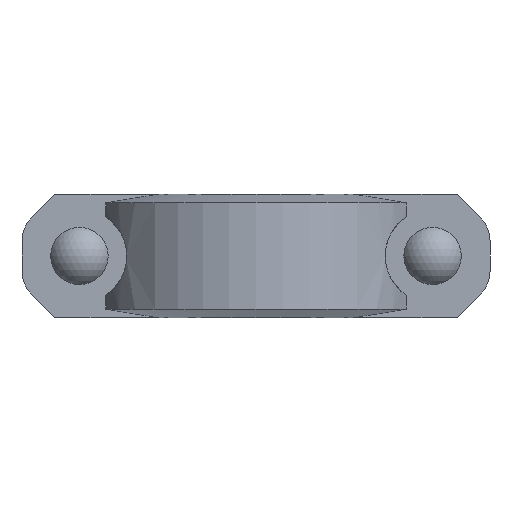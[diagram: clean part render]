
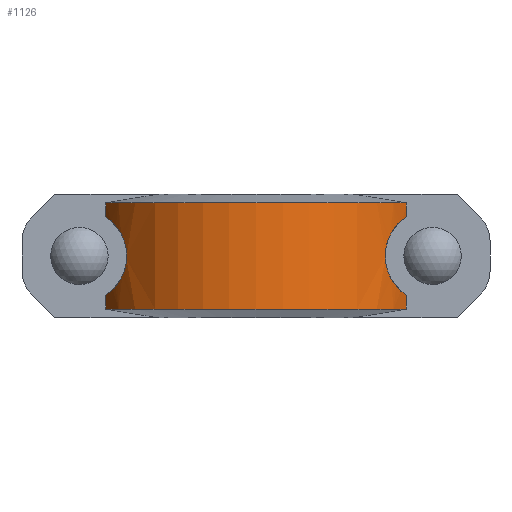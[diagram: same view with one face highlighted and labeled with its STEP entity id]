
A CAD part, front view. The second image highlights one B-rep face of the part: STEP entity #1126.
In plain terms, the highlighted cylindrical face has radius 63.5 mm (diameter 127 mm), a partial arc.
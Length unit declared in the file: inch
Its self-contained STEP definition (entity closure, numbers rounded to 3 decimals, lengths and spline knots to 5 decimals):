
#46=B_SPLINE_CURVE_WITH_KNOTS('',3,(#1940,#1941,#1942,#1943,#1944,#1945,
#1946,#1947,#1948,#1949,#1950,#1951,#1952,#1953,#1954,#1955,#1956,#1957,
#1958,#1959,#1960,#1961,#1962,#1963,#1964,#1965),.UNSPECIFIED.,.F.,.F.,
(4,2,2,2,2,2,2,2,2,2,2,2,4),(12.44604,12.81422,13.304,
13.79378,14.30355,14.55843,14.81331,15.0682,
15.32308,15.83285,16.32263,16.81241,17.18059),
 .UNSPECIFIED.);
#47=B_SPLINE_CURVE_WITH_KNOTS('',3,(#1970,#1971,#1972,#1973,#1974,#1975,
#1976,#1977,#1978,#1979,#1980,#1981,#1982,#1983,#1984,#1985,#1986,#1987,
#1988,#1989,#1990,#1991,#1992,#1993,#1994,#1995),.UNSPECIFIED.,.F.,.F.,
(4,2,2,2,2,2,2,2,2,2,2,2,4),(12.44604,12.81422,13.304,
13.79378,14.30355,14.55843,14.81331,15.0682,
15.32308,15.83285,16.32263,16.81241,17.18059),
 .UNSPECIFIED.);
#168=FACE_OUTER_BOUND('',#243,.T.);
#243=EDGE_LOOP('',(#968,#969,#970,#971,#972,#973,#974,#975));
#299=LINE('',#1758,#386);
#300=LINE('',#1762,#387);
#311=LINE('',#1801,#398);
#312=LINE('',#1805,#399);
#386=VECTOR('',#1434,0.3937);
#387=VECTOR('',#1437,0.3937);
#398=VECTOR('',#1464,0.3937);
#399=VECTOR('',#1467,0.3937);
#460=CIRCLE('',#1241,2.5);
#462=CIRCLE('',#1250,2.5);
#517=VERTEX_POINT('',#1753);
#518=VERTEX_POINT('',#1757);
#519=VERTEX_POINT('',#1759);
#520=VERTEX_POINT('',#1761);
#533=VERTEX_POINT('',#1796);
#534=VERTEX_POINT('',#1800);
#535=VERTEX_POINT('',#1802);
#536=VERTEX_POINT('',#1804);
#634=EDGE_CURVE('',#518,#517,#299,.T.);
#636=EDGE_CURVE('',#520,#519,#300,.T.);
#653=EDGE_CURVE('',#534,#533,#311,.T.);
#655=EDGE_CURVE('',#536,#535,#312,.T.);
#691=EDGE_CURVE('',#520,#533,#460,.T.);
#694=EDGE_CURVE('',#519,#518,#46,.T.);
#696=EDGE_CURVE('',#535,#534,#47,.T.);
#697=EDGE_CURVE('',#536,#517,#462,.T.);
#968=ORIENTED_EDGE('',*,*,#653,.T.);
#969=ORIENTED_EDGE('',*,*,#691,.F.);
#970=ORIENTED_EDGE('',*,*,#636,.T.);
#971=ORIENTED_EDGE('',*,*,#694,.T.);
#972=ORIENTED_EDGE('',*,*,#634,.T.);
#973=ORIENTED_EDGE('',*,*,#697,.F.);
#974=ORIENTED_EDGE('',*,*,#655,.T.);
#975=ORIENTED_EDGE('',*,*,#696,.T.);
#1004=CYLINDRICAL_SURFACE('',#1251,2.5);
#1126=ADVANCED_FACE('',(#168),#1004,.T.);
#1241=AXIS2_PLACEMENT_3D('',#1884,#1532,#1533);
#1250=AXIS2_PLACEMENT_3D('',#1997,#1550,#1551);
#1251=AXIS2_PLACEMENT_3D('',#1998,#1552,#1553);
#1434=DIRECTION('',(0.,0.,1.));
#1437=DIRECTION('',(0.,0.,1.));
#1464=DIRECTION('',(0.,0.,-1.));
#1467=DIRECTION('',(0.,0.,-1.));
#1532=DIRECTION('center_axis',(0.,0.,-1.));
#1533=DIRECTION('ref_axis',(1.,0.,0.));
#1550=DIRECTION('center_axis',(0.,0.,1.));
#1551=DIRECTION('ref_axis',(1.,0.,0.));
#1552=DIRECTION('center_axis',(0.,0.,1.));
#1553=DIRECTION('ref_axis',(1.,0.,0.));
#1753=CARTESIAN_POINT('',(2.29129,-1.,0.81));
#1757=CARTESIAN_POINT('',(2.29129,-1.,0.59952));
#1758=CARTESIAN_POINT('',(2.29129,-1.,0.));
#1759=CARTESIAN_POINT('',(2.29129,-1.,-0.59952));
#1761=CARTESIAN_POINT('',(2.29129,-1.,-0.81));
#1762=CARTESIAN_POINT('',(2.29129,-1.,0.));
#1796=CARTESIAN_POINT('',(-2.29129,-1.,-0.81));
#1800=CARTESIAN_POINT('',(-2.29129,-1.,-0.59952));
#1801=CARTESIAN_POINT('',(-2.29129,-1.,0.));
#1802=CARTESIAN_POINT('',(-2.29129,-1.,0.59952));
#1804=CARTESIAN_POINT('',(-2.29129,-1.,0.81));
#1805=CARTESIAN_POINT('',(-2.29129,-1.,0.));
#1884=CARTESIAN_POINT('Origin',(0.,0.,-0.81));
#1940=CARTESIAN_POINT('Ctrl Pts',(2.29129,-1.,-0.59952));
#1941=CARTESIAN_POINT('Ctrl Pts',(2.27274,-1.04249,-0.58719));
#1942=CARTESIAN_POINT('Ctrl Pts',(2.25338,-1.08363,-0.57308));
#1943=CARTESIAN_POINT('Ctrl Pts',(2.20703,-1.17579,-0.53508));
#1944=CARTESIAN_POINT('Ctrl Pts',(2.17965,-1.22557,-0.50956));
#1945=CARTESIAN_POINT('Ctrl Pts',(2.12477,-1.31843,-0.4479));
#1946=CARTESIAN_POINT('Ctrl Pts',(2.09722,-1.36156,-0.41188));
#1947=CARTESIAN_POINT('Ctrl Pts',(2.04376,-1.44063,-0.3219));
#1948=CARTESIAN_POINT('Ctrl Pts',(2.01708,-1.47727,-0.26455));
#1949=CARTESIAN_POINT('Ctrl Pts',(1.98932,-1.51422,-0.16895));
#1950=CARTESIAN_POINT('Ctrl Pts',(1.98204,-1.52367,-0.13552));
#1951=CARTESIAN_POINT('Ctrl Pts',(1.97238,-1.53616,-0.06777));
#1952=CARTESIAN_POINT('Ctrl Pts',(1.97,-1.53919,-0.03345));
#1953=CARTESIAN_POINT('Ctrl Pts',(1.97,-1.53919,0.03345));
#1954=CARTESIAN_POINT('Ctrl Pts',(1.97238,-1.53616,0.06777));
#1955=CARTESIAN_POINT('Ctrl Pts',(1.98204,-1.52367,0.13552));
#1956=CARTESIAN_POINT('Ctrl Pts',(1.98932,-1.51422,0.16895));
#1957=CARTESIAN_POINT('Ctrl Pts',(2.01708,-1.47727,0.26455));
#1958=CARTESIAN_POINT('Ctrl Pts',(2.04376,-1.44063,0.3219));
#1959=CARTESIAN_POINT('Ctrl Pts',(2.09722,-1.36156,0.41188));
#1960=CARTESIAN_POINT('Ctrl Pts',(2.12477,-1.31843,0.4479));
#1961=CARTESIAN_POINT('Ctrl Pts',(2.17965,-1.22557,0.50956));
#1962=CARTESIAN_POINT('Ctrl Pts',(2.20703,-1.17579,0.53508));
#1963=CARTESIAN_POINT('Ctrl Pts',(2.25338,-1.08363,0.57308));
#1964=CARTESIAN_POINT('Ctrl Pts',(2.27274,-1.04249,0.58719));
#1965=CARTESIAN_POINT('Ctrl Pts',(2.29129,-1.,0.59952));
#1970=CARTESIAN_POINT('Ctrl Pts',(-2.29129,-1.,
0.59952));
#1971=CARTESIAN_POINT('Ctrl Pts',(-2.27274,-1.04249,0.58719));
#1972=CARTESIAN_POINT('Ctrl Pts',(-2.25338,-1.08363,0.57308));
#1973=CARTESIAN_POINT('Ctrl Pts',(-2.20703,-1.17579,0.53508));
#1974=CARTESIAN_POINT('Ctrl Pts',(-2.17965,-1.22557,0.50956));
#1975=CARTESIAN_POINT('Ctrl Pts',(-2.12477,-1.31843,0.4479));
#1976=CARTESIAN_POINT('Ctrl Pts',(-2.09722,-1.36156,0.41188));
#1977=CARTESIAN_POINT('Ctrl Pts',(-2.04376,-1.44063,0.3219));
#1978=CARTESIAN_POINT('Ctrl Pts',(-2.01708,-1.47727,0.26455));
#1979=CARTESIAN_POINT('Ctrl Pts',(-1.98932,-1.51422,0.16895));
#1980=CARTESIAN_POINT('Ctrl Pts',(-1.98204,-1.52367,0.13552));
#1981=CARTESIAN_POINT('Ctrl Pts',(-1.97238,-1.53616,0.06777));
#1982=CARTESIAN_POINT('Ctrl Pts',(-1.97,-1.53919,0.03345));
#1983=CARTESIAN_POINT('Ctrl Pts',(-1.97,-1.53919,-0.03345));
#1984=CARTESIAN_POINT('Ctrl Pts',(-1.97238,-1.53616,-0.06777));
#1985=CARTESIAN_POINT('Ctrl Pts',(-1.98204,-1.52367,-0.13552));
#1986=CARTESIAN_POINT('Ctrl Pts',(-1.98932,-1.51422,-0.16895));
#1987=CARTESIAN_POINT('Ctrl Pts',(-2.01708,-1.47727,-0.26455));
#1988=CARTESIAN_POINT('Ctrl Pts',(-2.04376,-1.44063,-0.3219));
#1989=CARTESIAN_POINT('Ctrl Pts',(-2.09722,-1.36156,-0.41188));
#1990=CARTESIAN_POINT('Ctrl Pts',(-2.12477,-1.31843,-0.4479));
#1991=CARTESIAN_POINT('Ctrl Pts',(-2.17965,-1.22557,-0.50956));
#1992=CARTESIAN_POINT('Ctrl Pts',(-2.20703,-1.17579,-0.53508));
#1993=CARTESIAN_POINT('Ctrl Pts',(-2.25338,-1.08363,-0.57308));
#1994=CARTESIAN_POINT('Ctrl Pts',(-2.27274,-1.04249,-0.58719));
#1995=CARTESIAN_POINT('Ctrl Pts',(-2.29129,-1.,
-0.59952));
#1997=CARTESIAN_POINT('Origin',(0.,0.,0.81));
#1998=CARTESIAN_POINT('Origin',(0.,0.,0.));
